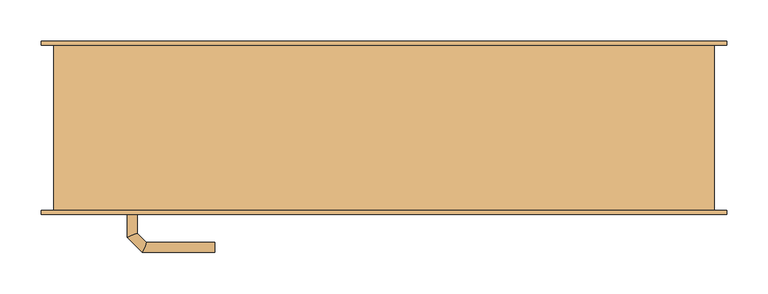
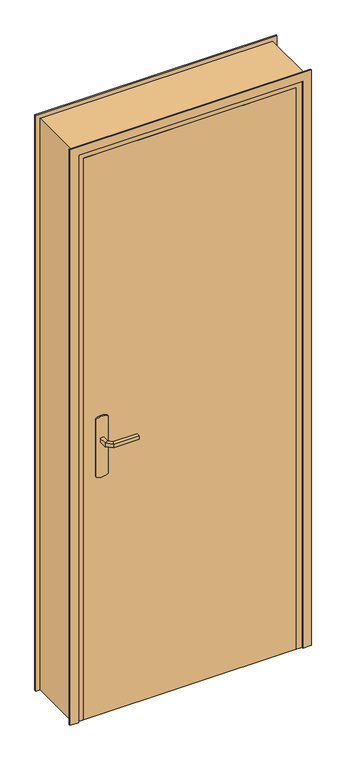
"""IFC4 building model written with IfcOpenShell, lengths in millimetres: door geometry, @_Int. Simple : @_PP (0.73m x 2.04m)."""

from ifc_helpers import new_model, si_unit, point, frame, frame_2d, origin, origin_with_axes, place, context, project, spatial, polyline, circle_curve, ellipse_curve, trimmed, segment, composite_curve, outline, extrude, faceted_brep, source, transform, mapped, element, save
from ifc_brep_helpers import plane_surface, cylinder_surface, advanced_brep


def door_83361101(model_context):
    return source(origin(), model_context, "Body", "SolidModel", [
        extrude(outline(composite_curve([segment(trimmed(circle_curve(frame_2d((904.6410162, -340.0)), 40.0), [point((870.0, -360.0))], [point((870.0, -320.0))], False, "CARTESIAN"), True, "CONTINUOUS"), segment(polyline([(870.0, -320.0), (1080.0, -320.0)]), True, "CONTINUOUS"), segment(trimmed(circle_curve(frame_2d((1045.3589838, -340.0)), 40.0), [point((1080.0, -320.0))], [point((1080.0, -360.0))], False, "CARTESIAN"), True, "CONTINUOUS"), segment(polyline([(1080.0, -360.0), (870.0, -360.0)]), True, "CONTINUOUS")], self_intersect=False)), frame((0.0, -105.0, 0.0), z_axis=(0.0, 1.0, 0.0), x_axis=(0.0, 0.0, 1.0)), (0.0, 0.0, 1.0), 5.0),
        extrude(outline(composite_curve([segment(trimmed(circle_curve(frame_2d((1045.3589838, -340.0)), 40.0), [point((1080.0, -320.0))], [point((1080.0, -360.0))], False, "CARTESIAN"), True, "CONTINUOUS"), segment(polyline([(1080.0, -360.0), (870.0, -360.0)]), True, "CONTINUOUS"), segment(trimmed(circle_curve(frame_2d((904.6410162, -340.0)), 40.0), [point((870.0, -360.0))], [point((870.0, -320.0))], False, "CARTESIAN"), True, "CONTINUOUS"), segment(polyline([(870.0, -320.0), (1080.0, -320.0)]), True, "CONTINUOUS")], self_intersect=False)), frame((0.0, -60.0, 0.0), z_axis=(0.0, 1.0, 0.0), x_axis=(0.0, 0.0, 1.0)), (0.0, 0.0, 1.0), 5.0),
        advanced_brep(
        [(-346.0, -105.0, 1007.0), (-334.0, -105.0, 1007.0), (-334.0, -105.0, 993.0), (-346.0, -105.0, 993.0), (-346.0, -132.6509507, 1007.0), (-334.0, -127.680388, 1007.0), (-334.0, -127.680388, 993.0), (-346.0, -132.6509507, 993.0), (-327.62279, -151.0281607, 1007.0), (-322.6522273, -139.0281607, 1007.0), (-322.6522273, -139.0281607, 993.0), (-327.62279, -151.0281607, 993.0), (-239.9813594, -151.0281607, 1007.0), (-239.9813594, -151.0281607, 993.0), (-239.9813594, -139.0281607, 993.0), (-239.9813594, -139.0281607, 1007.0)],
        [
            (0, 1, circle_curve(frame((-340.0, -105.0, 986.9542278), z_axis=(0.0, 1.0, 0.0), x_axis=(1.0, 0.0, 0.0)), 20.9244589)),
            (1, 2),
            (2, 3, circle_curve(frame((-340.0, -105.0, 1013.0457722), z_axis=(0.0, 1.0, 0.0), x_axis=(1.0, 0.0, 0.0)), 20.9244589)),
            (3, 0),
            (0, 4),
            (4, 5, ellipse_curve(frame((-340.0, -130.1656693, 986.9542278), z_axis=(-0.3826834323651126, 0.9238795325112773, 0.0), x_axis=(0.9238795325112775, 0.38268343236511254, 0.0)), 22.6484711, 20.9244589)),
            (5, 1),
            (5, 6),
            (6, 2),
            (6, 7, ellipse_curve(frame((-340.0, -130.1656693, 1013.0457722), z_axis=(-0.3826834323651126, 0.9238795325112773, 0.0), x_axis=(0.9238795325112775, 0.38268343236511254, 0.0)), 22.6484711, 20.9244589)),
            (7, 3),
            (7, 4),
            (4, 8),
            (8, 9, ellipse_curve(frame((-325.1375086, -145.0281607, 986.9542278), z_axis=(-0.9238795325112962, 0.38268343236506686, 0.0), x_axis=(0.3826834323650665, 0.9238795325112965, 0.0)), 22.6484711, 20.9244589)),
            (9, 5),
            (9, 10),
            (10, 6),
            (10, 11, ellipse_curve(frame((-325.1375086, -145.0281607, 1013.0457722), z_axis=(-0.9238795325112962, 0.38268343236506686, 0.0), x_axis=(0.3826834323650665, 0.9238795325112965, 0.0)), 22.6484711, 20.9244589)),
            (11, 7),
            (11, 8),
            (12, 13),
            (13, 14, circle_curve(frame((-239.9813594, -145.0281607, 1013.0457722), z_axis=(1.0, 0.0, 0.0), x_axis=(0.0, 1.0, 0.0)), 20.9244589)),
            (14, 15),
            (15, 12, circle_curve(frame((-239.9813594, -145.0281607, 986.9542278), z_axis=(1.0, 0.0, 0.0), x_axis=(0.0, 1.0, 0.0)), 20.9244589)),
            (8, 12),
            (15, 9),
            (14, 10),
            (13, 11),
        ],
        [
            plane_surface(frame((-349.2195445, -105.0, 1000.0), z_axis=(0.0, 1.0, 0.0), x_axis=(0.0, 0.0, -1.0))),
            cylinder_surface(frame((-340.0, -105.0, 986.9542278), z_axis=(0.0, 1.0, 0.0), x_axis=(1.0, 0.0, 0.0)), 20.9244589),
            plane_surface(frame((-334.0, -105.0, 1007.0), z_axis=(1.0, 0.0, 0.0), x_axis=(0.0, -1.0, 0.0))),
            cylinder_surface(frame((-340.0, -105.0, 1013.0457722), z_axis=(0.0, 1.0, 0.0), x_axis=(1.0, 0.0, 0.0)), 20.9244589),
            plane_surface(frame((-346.0, -105.0, 993.0), z_axis=(-1.0, 0.0, 0.0), x_axis=(0.0, -1.0, 0.0))),
            cylinder_surface(frame((-340.0, -130.1656693, 986.9542278), z_axis=(-0.7071067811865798, 0.7071067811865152, 0.0), x_axis=(0.7071067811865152, 0.7071067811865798, 0.0)), 20.9244589),
            plane_surface(frame((-334.0, -127.680388, 1007.0), z_axis=(0.7071067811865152, 0.7071067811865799, 0.0), x_axis=(0.7071067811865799, -0.7071067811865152, 0.0))),
            cylinder_surface(frame((-340.0, -130.1656693, 1013.0457722), z_axis=(-0.7071067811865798, 0.7071067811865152, 0.0), x_axis=(0.7071067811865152, 0.7071067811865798, 0.0)), 20.9244589),
            plane_surface(frame((-346.0, -132.6509507, 993.0), z_axis=(-0.7071067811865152, -0.7071067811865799, 0.0), x_axis=(0.7071067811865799, -0.7071067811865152, 0.0))),
            plane_surface(frame((-239.9813594, -145.0281607, 990.7804555), z_axis=(1.0, 0.0, 0.0), x_axis=(0.0, 1.0, 0.0))),
            cylinder_surface(frame((-325.1375086, -145.0281607, 986.9542278), z_axis=(-1.0, 0.0, 0.0), x_axis=(0.0, 1.0, 0.0)), 20.9244589),
            plane_surface(frame((-322.6522273, -139.0281607, 1007.0), z_axis=(0.0, 1.0, 0.0), x_axis=(1.0, 0.0, 0.0))),
            cylinder_surface(frame((-325.1375086, -145.0281607, 1013.0457722), z_axis=(-1.0, 0.0, 0.0), x_axis=(0.0, 1.0, 0.0)), 20.9244589),
            plane_surface(frame((-327.62279, -151.0281607, 993.0), z_axis=(0.0, -1.0, 0.0), x_axis=(1.0, 0.0, 0.0))),
        ],
        [
            (0, [[1, 2, 3, 4]]),
            (1, [[-1, 5, 6, 7]]),
            (2, [[-2, -7, 8, 9]]),
            (3, [[-3, -9, 10, 11]]),
            (4, [[-4, -11, 12, -5]]),
            (5, [[-6, 13, 14, 15]]),
            (6, [[-8, -15, 16, 17]]),
            (7, [[-10, -17, 18, 19]]),
            (8, [[-12, -19, 20, -13]]),
            (9, [[21, 22, 23, 24]]),
            (10, [[-14, 25, -24, 26]]),
            (11, [[-16, -26, -23, 27]]),
            (12, [[-18, -27, -22, 28]]),
            (13, [[-20, -28, -21, -25]]),
        ],
    ),
        advanced_brep(
        [(-334.0, -55.0, 993.0), (-334.0, -55.0, 1007.0), (-346.0, -55.0, 1007.0), (-346.0, -55.0, 993.0), (-334.0, -32.5147955, 993.0), (-334.0, -32.5147955, 1007.0), (-346.0, -27.5442327, 1007.0), (-346.0, -27.5442327, 993.0), (-322.5147186, -21.0295141, 993.0), (-322.5147186, -21.0295141, 1007.0), (-327.4852814, -9.0295141, 1007.0), (-327.4852814, -9.0295141, 993.0), (-239.9542163, -21.0295141, 993.0), (-239.9542163, -9.0295141, 993.0), (-239.9542163, -9.0295141, 1007.0), (-239.9542163, -21.0295141, 1007.0)],
        [
            (0, 1),
            (1, 2, circle_curve(frame((-340.0, -55.0, 986.9542278), z_axis=(0.0, -1.0, 0.0), x_axis=(-1.0, 0.0, 0.0)), 20.9244589)),
            (2, 3),
            (3, 0, circle_curve(frame((-340.0, -55.0, 1013.0457722), z_axis=(0.0, -1.0, 0.0), x_axis=(-1.0, 0.0, 0.0)), 20.9244589)),
            (0, 4),
            (4, 5),
            (5, 1),
            (5, 6, ellipse_curve(frame((-340.0, -30.0295141, 986.9542278), z_axis=(-0.3826834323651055, -0.9238795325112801, 0.0), x_axis=(0.9238795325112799, -0.3826834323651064, 0.0)), 22.6484711, 20.9244589)),
            (6, 2),
            (6, 7),
            (7, 3),
            (7, 4, ellipse_curve(frame((-340.0, -30.0295141, 1013.0457722), z_axis=(-0.3826834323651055, -0.9238795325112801, 0.0), x_axis=(0.9238795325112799, -0.3826834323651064, 0.0)), 22.6484711, 20.9244589)),
            (4, 8),
            (8, 9),
            (9, 5),
            (9, 10, ellipse_curve(frame((-325.0, -15.0295141, 986.9542278), z_axis=(-0.9238795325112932, -0.382683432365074, 0.0), x_axis=(0.3826834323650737, -0.9238795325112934, 0.0)), 22.6484711, 20.9244589)),
            (10, 6),
            (10, 11),
            (11, 7),
            (11, 8, ellipse_curve(frame((-325.0, -15.0295141, 1013.0457722), z_axis=(-0.9238795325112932, -0.382683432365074, 0.0), x_axis=(0.3826834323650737, -0.9238795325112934, 0.0)), 22.6484711, 20.9244589)),
            (12, 13, circle_curve(frame((-239.9542163, -15.0295141, 1013.0457722), z_axis=(1.0, 0.0, 0.0), x_axis=(0.0, 1.0, 0.0)), 20.9244589)),
            (13, 14),
            (14, 15, circle_curve(frame((-239.9542163, -15.0295141, 986.9542278), z_axis=(1.0, 0.0, 0.0), x_axis=(0.0, 1.0, 0.0)), 20.9244589)),
            (15, 12),
            (8, 12),
            (15, 9),
            (14, 10),
            (13, 11),
        ],
        [
            plane_surface(frame((-349.2195445, -55.0, 1000.0), z_axis=(0.0, -1.0, 0.0), x_axis=(0.0, 0.0, 1.0))),
            plane_surface(frame((-334.0, -55.0, 993.0), z_axis=(1.0, 0.0, 0.0), x_axis=(0.0, 1.0, 0.0))),
            cylinder_surface(frame((-340.0, -55.0, 986.9542278), z_axis=(0.0, -1.0, 0.0), x_axis=(-1.0, 0.0, 0.0)), 20.9244589),
            plane_surface(frame((-346.0, -55.0, 1007.0), z_axis=(-1.0, 0.0, 0.0), x_axis=(0.0, 1.0, 0.0))),
            cylinder_surface(frame((-340.0, -55.0, 1013.0457722), z_axis=(0.0, -1.0, 0.0), x_axis=(-1.0, 0.0, 0.0)), 20.9244589),
            plane_surface(frame((-334.0, -32.5147955, 993.0), z_axis=(0.7071067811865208, -0.7071067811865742, 0.0), x_axis=(0.7071067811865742, 0.7071067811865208, 0.0))),
            cylinder_surface(frame((-340.0, -30.0295141, 986.9542278), z_axis=(-0.7071067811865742, -0.7071067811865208, 0.0), x_axis=(-0.7071067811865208, 0.7071067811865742, 0.0)), 20.9244589),
            plane_surface(frame((-346.0, -27.5442327, 1007.0), z_axis=(-0.7071067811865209, 0.7071067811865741, 0.0), x_axis=(0.7071067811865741, 0.7071067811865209, 0.0))),
            cylinder_surface(frame((-340.0, -30.0295141, 1013.0457722), z_axis=(-0.7071067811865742, -0.7071067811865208, 0.0), x_axis=(-0.7071067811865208, 0.7071067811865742, 0.0)), 20.9244589),
            plane_surface(frame((-239.9542163, -15.0295141, 990.7804555), z_axis=(1.0, 0.0, 0.0), x_axis=(0.0, 1.0, 0.0))),
            plane_surface(frame((-322.5147186, -21.0295141, 993.0), z_axis=(0.0, -1.0, 0.0), x_axis=(1.0, 0.0, 0.0))),
            cylinder_surface(frame((-325.0, -15.0295141, 986.9542278), z_axis=(-1.0, 0.0, 0.0), x_axis=(0.0, 1.0, 0.0)), 20.9244589),
            plane_surface(frame((-327.4852814, -9.0295141, 1007.0), z_axis=(0.0, 1.0, 0.0), x_axis=(1.0, 0.0, 0.0))),
            cylinder_surface(frame((-325.0, -15.0295141, 1013.0457722), z_axis=(-1.0, 0.0, 0.0), x_axis=(0.0, 1.0, 0.0)), 20.9244589),
        ],
        [
            (0, [[1, 2, 3, 4]]),
            (1, [[-1, 5, 6, 7]]),
            (2, [[-2, -7, 8, 9]]),
            (3, [[-3, -9, 10, 11]]),
            (4, [[-4, -11, 12, -5]]),
            (5, [[-6, 13, 14, 15]]),
            (6, [[-8, -15, 16, 17]]),
            (7, [[-10, -17, 18, 19]]),
            (8, [[-12, -19, 20, -13]]),
            (9, [[21, 22, 23, 24]]),
            (10, [[-14, 25, -24, 26]]),
            (11, [[-16, -26, -23, 27]]),
            (12, [[-18, -27, -22, 28]]),
            (13, [[-20, -28, -21, -25]]),
        ],
    ),
        extrude(outline(polyline([(-400.0, -60.0), (330.0, -60.0), (330.0, -100.0), (-400.0, -100.0), (-400.0, -60.0)])), origin_with_axes(), (0.0, 0.0, 1.0), 2040.0),
        faceted_brep([(-435.0, -100.0, 0.0), (-435.0, 100.0, 0.0), (-385.0, 100.0, 0.0), (-385.0, -60.0, 0.0), (-400.0, -60.0, 0.0), (-400.0, -100.0, 0.0), (-435.0, -100.0, 2075.0), (-435.0, 100.0, 2075.0), (365.0, 100.0, 2075.0), (365.0, 100.0, 0.0), (315.0, 100.0, 0.0), (315.0, 100.0, 2025.0), (-385.0, 100.0, 2025.0), (-385.0, -60.0, 2025.0), (315.0, -60.0, 2025.0), (315.0, -60.0, 0.0), (330.0, -60.0, 0.0), (330.0, -60.0, 2040.0), (-400.0, -60.0, 2040.0), (-400.0, -100.0, 2040.0), (330.0, -100.0, 2040.0), (330.0, -100.0, 0.0), (365.0, -100.0, 0.0), (365.0, -100.0, 2075.0)], [[[0, 1, 2, 3, 4, 5]], [[1, 0, 6, 7]], [[2, 1, 7, 8, 9, 10, 11, 12]], [[3, 2, 12, 13]], [[4, 3, 13, 14, 15, 16, 17, 18]], [[5, 4, 18, 19]], [[0, 5, 19, 20, 21, 22, 23, 6]], [[8, 23, 22, 9]], [[22, 21, 16, 15, 10, 9]], [[14, 11, 10, 15]], [[20, 17, 16, 21]], [[7, 6, 23, 8]], [[13, 12, 11, 14]], [[19, 18, 17, 20]]]),
        extrude(outline(polyline([(0.0, -450.0), (0.0, -420.0), (2060.0, -420.0), (2060.0, 350.0), (0.0, 350.0), (0.0, 380.0), (2090.0, 380.0), (2090.0, -450.0), (0.0, -450.0)])), frame((0.0, -105.0, 0.0), z_axis=(0.0, 1.0, 0.0), x_axis=(0.0, 0.0, 1.0)), (0.0, 0.0, 1.0), 5.0),
        extrude(outline(polyline([(0.0, -450.0), (0.0, -420.0), (2060.0, -420.0), (2060.0, 350.0), (0.0, 350.0), (0.0, 380.0), (2090.0, 380.0), (2090.0, -450.0), (0.0, -450.0)])), frame((0.0, 100.0, 0.0), z_axis=(0.0, 1.0, 0.0), x_axis=(0.0, 0.0, 1.0)), (0.0, 0.0, 1.0), 5.0),
    ])


if __name__ == "__main__":
    model = new_model("IFC4")
    model_context = context("Model", 3, world=origin())
    ifc_project = project(units=[si_unit("LENGTHUNIT", "METRE", prefix="MILLI")], contexts=[model_context])
    site = spatial("IfcSite", under=ifc_project)
    building = spatial("IfcBuilding", under=site)
    placement = place(None, origin())
    door_shape = door_83361101(model_context)
    element("IfcDoor", 1, ObjectType="@_Int. Simple : @_PP (0.73m x 2.04m)", at=placement, inside=building, context=model_context, shape_type="MappedRepresentation", body=[
        mapped(door_shape, transform((0.0, 0.0, 0.0), x_axis=(1.0, 0.0, 0.0), y_axis=(0.0, 1.0, 0.0), z_axis=(0.0, 0.0, 1.0))),
    ])
    save(model, "model.ifc")
